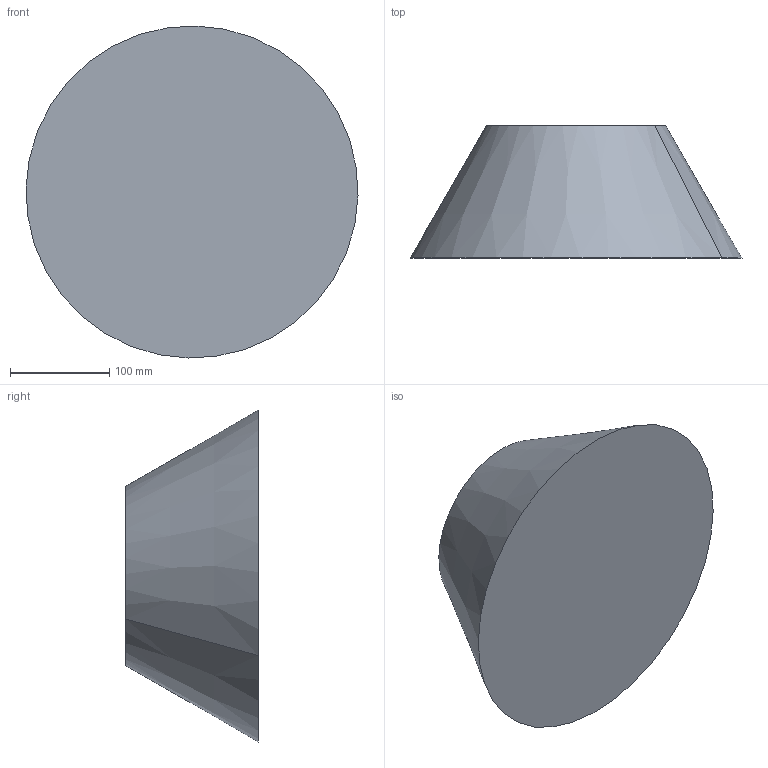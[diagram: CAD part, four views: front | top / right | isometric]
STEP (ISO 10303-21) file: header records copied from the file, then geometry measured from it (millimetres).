
FILE_DESCRIPTION(('CATIA V5 STEP Exchange'),'2;1');
FILE_NAME('C:\_Andres\UNIVERSIDAD\IQS\ASIGNATURAS\DAO\EXF\EXF-16172c\2inicio\Sarrió_Mercade_Ej09_v33.stp','2017-03-05T22:13:15+00:00',('none'),('none'),'CATIA Version 5-6 Release 2014 SP1 HF18','CATIA V5 STEP AP203','none');
FILE_SCHEMA(('CONFIG_CONTROL_DESIGN'));
Length unit declared in the file: millimetre
Products named in the file (1): Sarrió_Mercade_Ej09_v33
Bounding box: 333.91 x 133 x 333.91 mm (x, y, z)
Volume: 7108205.4 mm3; surface area: 239479.6 mm2
Topology: 1 solids, 2 shells, 8 faces, 12 edges, 8 vertices
Faces by surface type: plane 4, cone 2, cylinder 2
Entity records: 205 total; most frequent: CARTESIAN_POINT 27, DIRECTION 24, ORIENTED_EDGE 24, AXIS2_PLACEMENT_3D 15, EDGE_CURVE 12, ADVANCED_FACE 8, CIRCLE 8, EDGE_LOOP 8
